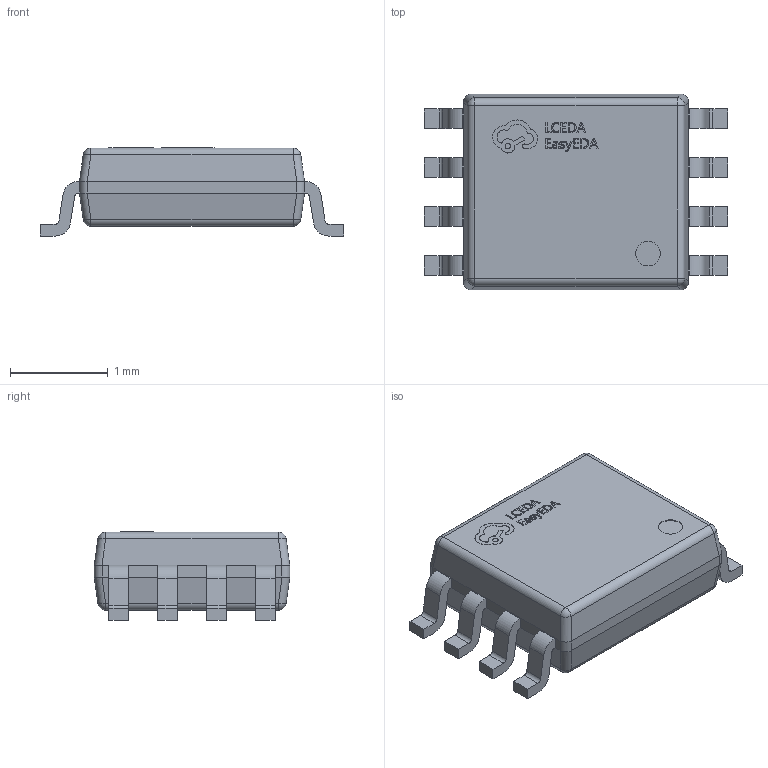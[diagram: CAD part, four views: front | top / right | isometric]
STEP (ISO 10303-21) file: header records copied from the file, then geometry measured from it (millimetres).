
FILE_DESCRIPTION (( 'STEP AP214' ), '1' );
FILE_NAME ('SSOP-8_L2.0-W2.3-P0.50-LS3.1-BR.STEP', '2023-09-08T05:38:04', ( '' ), ( '' ), 'SwSTEP 2.0', 'SolidWorks 2020', '' );
FILE_SCHEMA (( 'AUTOMOTIVE_DESIGN' ));
Length unit declared in the file: millimetre
Products named in the file (1): SSOP-8_L2.0-W2.3-P0.50-LS3.1-BR
Bounding box: 3.1 x 2 x 0.9 mm (x, y, z)
Volume: 3.7 mm3; surface area: 18.4 mm2
Topology: 1 solids, 1 shells, 381 faces, 1021 edges, 662 vertices
Faces by surface type: plane 221, bspline 98, cylinder 54, sphere 8
Entity records: 16496 total; most frequent: CARTESIAN_POINT 3443, ORIENTED_EDGE 2042, DIRECTION 1457, EDGE_CURVE 1021, LINE 705, VECTOR 705, VERTEX_POINT 662, EDGE_LOOP 401
